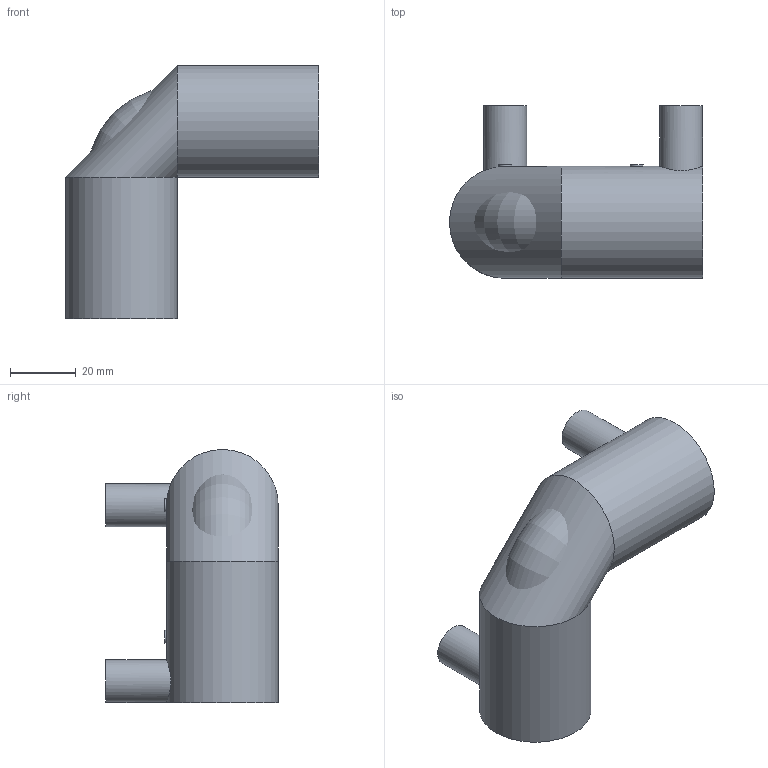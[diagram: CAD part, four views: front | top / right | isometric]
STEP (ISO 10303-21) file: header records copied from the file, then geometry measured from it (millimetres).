
FILE_DESCRIPTION(/* description */ ('Unknown'),/* implementation_level */ '2;1');
FILE_NAME(/* name */ 'GE9P025C.PF',/* time_stamp */ '2021-11-08T16:03:24+01:00',/* author */ ('Unknown'),/* organization */ ('Unknown'),/* preprocessor_version */ 'ST-DEVELOPER v16.7',/* originating_system */ 'Solid Edge',/* authorisation */ 'Unknown');
FILE_SCHEMA (('AUTOMOTIVE_DESIGN {1 0 10303 214 3 1 1}'));
Length unit declared in the file: millimetre
Products named in the file (1): GE9P025C.PF
Bounding box: 77 x 52.5 x 77 mm (x, y, z)
Volume: 54631.8 mm3; surface area: 24623.3 mm2
Topology: 1 solids, 1 shells, 28 faces, 62 edges, 40 vertices
Faces by surface type: cylinder 14, plane 12, torus 2
Full cylindrical faces by diameter (mm): 4 x4, 10 x2, 13 x2, 21 x2, 25 x2, 34 x2
Entity records: 680 total; most frequent: CARTESIAN_POINT 163, DIRECTION 108, ORIENTED_EDGE 66, AXIS2_PLACEMENT_3D 54, EDGE_LOOP 52, FACE_BOUND 52, EDGE_CURVE 33, VERTEX_POINT 29
